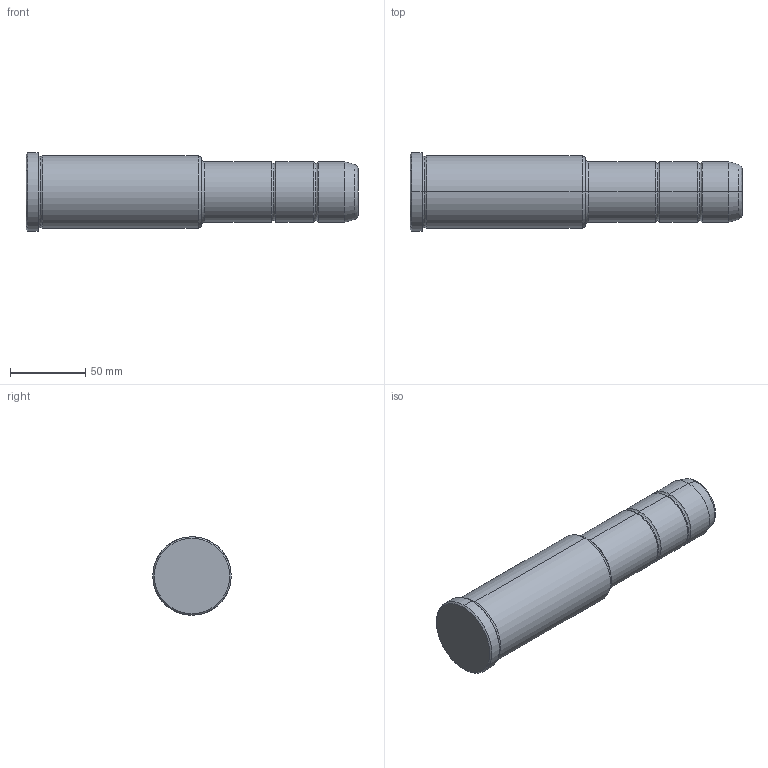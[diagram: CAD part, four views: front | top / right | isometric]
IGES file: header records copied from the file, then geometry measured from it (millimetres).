
Start section: START RECORD GO HERE.
Global section: file name: 351-40X116X220.igs; native system: DASSAULT SYSTEMES CATIA V5 R20 - www.3ds.com; preprocessor: CATIA Version 5 Release 20 ; author: Utente; organization: NB04-ASUS; date: 20211007.151914; units: millimetre
Bounding box: 220 x 52 x 52 mm (x, y, z)
Surface area: 34357.3 mm2 (no closed solid volume)
Topology: 0 solids, 0 shells, 36 faces, 204 edges, 204 vertices
Faces by surface type: revolution 32, plane 4
